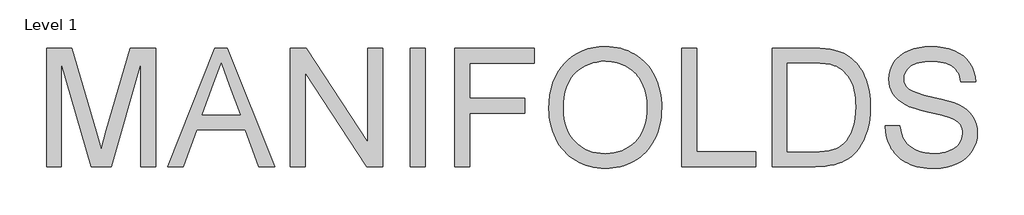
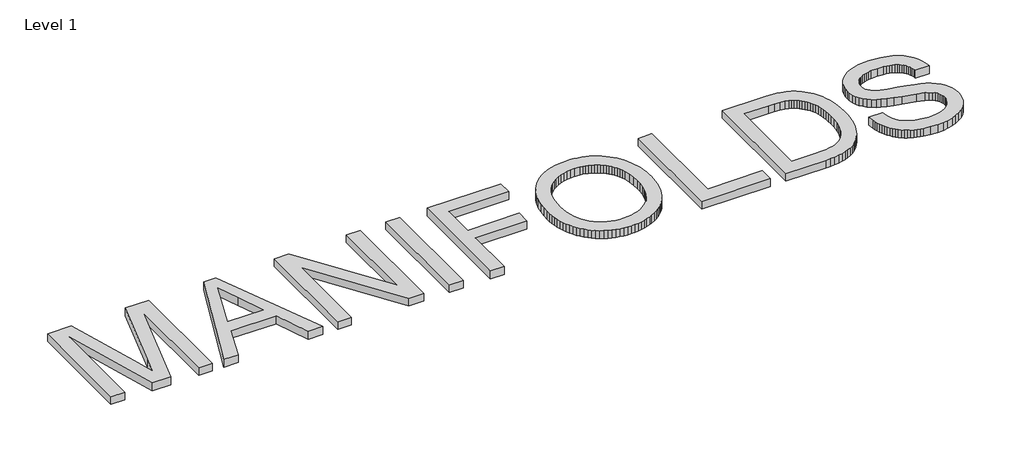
# One storey, part 7 of 58: 1 proxy.
"""IFC4 building model written with IfcOpenShell, lengths in millimetres."""

from ifc_helpers import new_model, si_unit, frame, origin, place, context, project, spatial, polyline, outline, extrude, element, save

model = new_model("IFC4")

# Units and contexts
model_context = context("Model", 3, world=origin())
ifc_project = project(units=[si_unit("LENGTHUNIT", "METRE", prefix="MILLI")], contexts=[model_context])

# Site, building, storey
site = spatial("IfcSite", under=ifc_project)
building = spatial("IfcBuilding", under=site)
storey = spatial("IfcBuildingStorey", under=building, Name="Level 1", Elevation=27.3876384)

# Proxy
placement = place(None, origin())
element("IfcBuildingElementProxy", 1, Name="2000mm Arial", ObjectType="2000mm Arial", at=placement, inside=storey, context=model_context, shape_type="SweptSolid", body=[
    extrude(outline(polyline([(3112.7151983, -5768.0795182), (3112.7151983, -3758.9533152), (3544.8539153, -3758.9533152), (3955.9007312, -5175.053742), (4038.7968075, -5470.8308661), (4128.5600143, -5150.5282757), (4532.7396997, -3758.9533152), (4964.8784167, -3758.9533152), (4964.8784167, -5768.0795182), (4713.7376413, -5768.0795182), (4713.7376413, -4010.0940906), (4209.0035439, -5768.0795182), (3868.590071, -5768.0795182), (3363.8559737, -4010.0940906), (3363.8559737, -5768.0795182), (3112.7151983, -5768.0795182)])), frame((0.0, 0.0, 27.3876384), z_axis=(0.0, 0.0, 1.0), x_axis=(1.0, 0.0, 0.0)), (0.0, 0.0, 1.0), 150.0),
    extrude(outline(polyline([(5170.4018246, -5768.0795182), (5972.3845741, -3758.9533152), (6186.2466407, -3758.9533152), (6988.2293901, -5768.0795182), (6722.8638443, -5768.0795182), (6492.81497, -5140.2275798), (5665.3257355, -5140.2275798), (5435.7673705, -5768.0795182), (5170.4018246, -5768.0795182)]), holes=[polyline([(5757.5414889, -4889.0868044), (6401.0897258, -4889.0868044), (6220.0917842, -4395.1439122), (6079.3156074, -4010.0940906), (5954.235729, -4351.9790915), (5757.5414889, -4889.0868044)])]), frame((0.0, 0.0, 27.3876384), z_axis=(0.0, 0.0, 1.0), x_axis=(1.0, 0.0, 0.0)), (0.0, 0.0, 1.0), 150.0),
    extrude(outline(polyline([(7256.537992, -5768.0795182), (7256.537992, -3758.9533152), (7525.3371031, -3758.9533152), (8575.0270627, -5350.656081), (8575.0270627, -3758.9533152), (8826.167838, -3758.9533152), (8826.167838, -5768.0795182), (8557.3687269, -5768.0795182), (7507.6787673, -4175.8862431), (7507.6787673, -5768.0795182), (7256.537992, -5768.0795182)])), frame((0.0, 0.0, 27.3876384), z_axis=(0.0, 0.0, 1.0), x_axis=(1.0, 0.0, 0.0)), (0.0, 0.0, 1.0), 150.0),
    extrude(outline(polyline([(9297.0567919, -5768.0795182), (9297.0567919, -3758.9533152), (9548.1975672, -3758.9533152), (9548.1975672, -5768.0795182), (9297.0567919, -5768.0795182)])), frame((0.0, 0.0, 27.3876384), z_axis=(0.0, 0.0, 1.0), x_axis=(1.0, 0.0, 0.0)), (0.0, 0.0, 1.0), 150.0),
    extrude(outline(polyline([(10050.479118, -5768.0795182), (10050.479118, -3758.9533152), (11400.3607856, -3758.9533152), (11400.3607856, -4010.0940906), (10301.6198934, -4010.0940906), (10301.6198934, -4606.5534321), (11243.397801, -4606.5534321), (11243.397801, -4857.6942075), (10301.6198934, -4857.6942075), (10301.6198934, -5768.0795182), (10050.479118, -5768.0795182)])), frame((0.0, 0.0, 27.3876384), z_axis=(0.0, 0.0, 1.0), x_axis=(1.0, 0.0, 0.0)), (0.0, 0.0, 1.0), 150.0),
    extrude(outline(polyline([(11651.501561, -4790.0039204), (11655.6862187, -4668.7944672), (11668.2401918, -4554.3448456), (11689.1634803, -4446.6550558), (11718.4560841, -4345.7250975), (11756.1180034, -4251.554971), (11802.149238, -4164.1446761), (11856.5497881, -4083.4942129), (11919.3196535, -4009.6035813), (11988.7037306, -3943.4997853), (12062.9469158, -3886.2098287), (12142.0492089, -3837.7337117), (12226.0106101, -3798.0714341), (12314.8311194, -3767.2229959), (12408.5107366, -3745.1883973), (12507.0494618, -3731.967638), (12610.4472951, -3727.5607183), (12678.8810104, -3729.6300545), (12745.6132715, -3735.8380632), (12810.6440783, -3746.1847443), (12873.973431, -3760.6700979), (12935.6013294, -3779.2941239), (12995.5277736, -3802.0568223), (13053.7527635, -3828.9581932), (13110.2762992, -3859.9982366), (13164.2936388, -3894.7400925), (13215.0000405, -3932.7469011), (13262.3955042, -3974.0186625), (13306.48003, -4018.5553765), (13347.2536178, -4066.3570432), (13384.7162676, -4117.4236627), (13418.8679795, -4171.7552349), (13449.7087534, -4229.3517597), (13477.0699768, -4289.577108), (13500.7830371, -4351.7951505), (13520.8479342, -4416.005887), (13537.2646683, -4482.2093178), (13550.0332392, -4550.4054426), (13559.153647, -4620.5942616), (13564.6258917, -4692.7757747), (13566.4499732, -4766.949982), (13564.5300891, -4842.0975437), (13558.7704366, -4915.2370829), (13549.1710158, -4986.3685995), (13535.7318266, -5055.4920936), (13518.4528692, -5122.6075651), (13497.3341434, -5187.715014), (13472.3756493, -5250.8144404), (13443.5773868, -5311.9058442), (13411.2574207, -5370.1691552), (13375.7338156, -5424.7843031), (13337.0065714, -5475.7512878), (13295.0756881, -5523.0701094), (13249.9411658, -5566.740768), (13201.6030045, -5606.7632633), (13150.0612041, -5643.1375956), (13095.3157647, -5675.8637648), (13038.4128507, -5704.8344719), (12980.3986265, -5729.9424181), (12921.2730921, -5751.1876033), (12861.0362475, -5768.5700276), (12799.6880927, -5782.0896909), (12737.2286277, -5791.7465933), (12673.6578525, -5797.5407347), (12608.9757671, -5799.4721152), (12539.2774574, -5797.3376332), (12471.4492146, -5790.9341872), (12405.4910385, -5780.2617772), (12341.4029293, -5765.3204033), (12279.1848869, -5746.1100653), (12218.8369112, -5722.6307634), (12160.3590024, -5694.8824975), (12103.7511604, -5662.8652676), (12049.7644776, -5627.1577215), (11999.1500464, -5588.3385068), (11951.9078669, -5546.4076235), (11908.037939, -5501.3650717), (11867.5402627, -5453.2108514), (11830.414838, -5401.9449625), (11796.6616649, -5347.5674051), (11766.2807435, -5290.0781792), (11739.3793726, -5230.6000912), (11716.0648512, -5170.2559477), (11696.3371792, -5109.0457486), (11680.1963566, -5046.969494), (11667.6423835, -4984.0271839), (11658.6752599, -4920.2188183), (11653.2949857, -4855.5443971), (11651.501561, -4790.0039204)]), holes=[polyline([(11902.6423364, -4792.456467), (11905.7808297, -4878.0426804), (11915.1963095, -4958.9537267), (11930.8887758, -5035.189606), (11952.8582287, -5106.7503182), (11981.1046682, -5173.6358635), (12015.6280941, -5235.8462417), (12056.4285067, -5293.3814529), (12103.5059057, -5346.2414971), (12155.3197855, -5393.606304), (12210.3296401, -5434.6558033), (12268.5354695, -5469.389995), (12329.9372738, -5497.8088791), (12394.5350529, -5519.9124557), (12462.3288068, -5535.7007246), (12533.3185355, -5545.173686), (12607.5042391, -5548.3313398), (12683.0465076, -5545.1430292), (12755.162875, -5535.5780973), (12823.8533412, -5519.6365442), (12889.1179064, -5497.3183698), (12950.9565706, -5468.6235742), (13009.3693336, -5433.5521573), (13064.3561956, -5392.1041192), (13115.9171565, -5344.2794598), (13162.6496662, -5290.5916811), (13203.1511746, -5231.5542851), (13237.4216817, -5167.1672717), (13265.4611875, -5097.430641), (13287.269692, -5022.344393), (13302.8471953, -4941.9085276), (13312.1936972, -4856.1230448), (13315.3091979, -4764.9879447), (13309.9749089, -4650.0554781), (13293.9720421, -4542.6645923), (13267.3005975, -4442.8152874), (13249.9641585, -4395.7187278), (13229.960575, -4350.5075635), (13207.3933138, -4307.4845306), (13182.3658419, -4266.9523653), (13154.878159, -4228.9110678), (13124.9302654, -4193.3606379), (13092.5221608, -4160.3010757), (13057.6538455, -4129.7323811), (13020.3253193, -4101.6545543), (12980.5365822, -4076.0675951), (12938.8854426, -4053.2474151), (12895.9697086, -4033.4699257), (12851.7893802, -4016.735127), (12806.3444575, -4003.043019), (12759.6349405, -3992.3936017), (12711.660829, -3984.786875), (12611.9188231, -3978.7014937), (12540.5880371, -3981.6330533), (12471.7864398, -3990.4277323), (12405.5140312, -4005.0855305), (12341.7708113, -4025.6064481), (12280.5567801, -4051.9904849), (12221.8719377, -4084.2376411), (12165.716284, -4122.3479165), (12112.089819, -4166.3213112), (12063.0005652, -4217.1465081), (12020.4565453, -4275.81219), (11984.4577593, -4342.318357), (11955.004207, -4416.6650089), (11932.0958886, -4498.8521459), (11915.732804, -4588.8797679), (11905.9149533, -4686.747875), (11902.6423364, -4792.456467)])]), frame((0.0, 0.0, 27.3876384), z_axis=(0.0, 0.0, 1.0), x_axis=(1.0, 0.0, 0.0)), (0.0, 0.0, 1.0), 150.0),
    extrude(outline(polyline([(13911.7685394, -5768.0795182), (13911.7685394, -3758.9533152), (14162.9093147, -3758.9533152), (14162.9093147, -5516.9387429), (15167.4724162, -5516.9387429), (15167.4724162, -5768.0795182), (13911.7685394, -5768.0795182)])), frame((0.0, 0.0, 27.3876384), z_axis=(0.0, 0.0, 1.0), x_axis=(1.0, 0.0, 0.0)), (0.0, 0.0, 1.0), 150.0),
    extrude(outline(polyline([(15450.0057885, -5768.0795182), (15450.0057885, -3758.9533152), (16143.0954675, -3758.9533152), (16253.6133502, -3760.7620684), (16350.2130307, -3766.1883278), (16432.8945092, -3775.2320935), (16501.6577854, -3787.8933655), (16584.86043, -3811.7750384), (16661.8090806, -3843.6888015), (16732.5037374, -3883.6346548), (16796.9444002, -3931.6125983), (16835.4263897, -3966.3774469), (16871.4098474, -4003.4722147), (16904.8947732, -4042.8969018), (16935.8811671, -4084.6515083), (16964.3690291, -4128.7360341), (16990.3583592, -4175.1504791), (17013.8491574, -4223.8948435), (17034.8414238, -4274.9691271), (17069.3916745, -4383.1877474), (17094.070425, -4498.8866349), (17108.8776753, -4622.0657896), (17113.8134254, -4752.7252115), (17110.4718306, -4863.7795888), (17100.4470462, -4968.3653744), (17083.7390723, -5066.4825682), (17060.3479088, -5158.1311702), (17031.7144268, -5242.7287007), (16999.2794976, -5319.6926798), (16963.043121, -5389.0231074), (16923.0052972, -5450.7199837), (16880.0857311, -5505.5190726), (16835.2041277, -5554.156138), (16788.360487, -5596.6311801), (16739.554809, -5632.9441987), (16687.2082667, -5664.168183), (16629.7420334, -5691.3761222), (16567.156109, -5714.5680163), (16499.4504934, -5733.7438653), (16426.5638732, -5748.7657135), (16348.4349344, -5759.495605), (16265.0636773, -5765.9335399), (16176.4501017, -5768.0795182), (15450.0057885, -5768.0795182)]), holes=[polyline([(15701.1465639, -5516.9387429), (16145.5480141, -5516.9387429), (16243.006086, -5514.6701372), (16329.3663843, -5507.8643203), (16404.6289092, -5496.5212921), (16468.7936605, -5480.6410527), (16524.4051555, -5460.6221408), (16574.0079111, -5436.8630952), (16617.6019276, -5409.3639161), (16655.1872047, -5378.1246033), (16701.5250077, -5327.7707553), (16742.4365513, -5269.4154738), (16777.9218354, -5203.0587589), (16807.9808601, -5128.7006106), (16831.9085182, -5046.1877448), (16848.9997025, -4955.3668772), (16859.2544131, -4856.2380079), (16862.67265, -4748.8011369), (16860.9980205, -4673.6612394), (16855.974132, -4602.9972395), (16847.6009845, -4536.8091372), (16835.878578, -4475.0969325), (16820.8069125, -4417.8606254), (16802.3859881, -4365.100216), (16780.6158046, -4316.8157041), (16755.4963621, -4273.0070898), (16727.9780224, -4233.153207), (16699.0111474, -4196.7328895), (16668.595737, -4163.7461373), (16636.7317913, -4134.1929503), (16603.4193102, -4108.0733287), (16568.6582938, -4085.3872723), (16532.448742, -4066.1347812), (16494.7906548, -4050.3158554), (16430.9631287, -4032.7188333), (16350.3356581, -4020.1495318), (16252.908243, -4012.6079509), (16138.6808835, -4010.0940906), (15701.1465639, -4010.0940906), (15701.1465639, -5516.9387429)])]), frame((0.0, 0.0, 27.3876384), z_axis=(0.0, 0.0, 1.0), x_axis=(1.0, 0.0, 0.0)), (0.0, 0.0, 1.0), 150.0),
    extrude(outline(polyline([(17364.9542008, -5077.442386), (17616.0949761, -5077.442386), (17627.5912885, -5150.5436041), (17644.9123991, -5216.8083485), (17668.058308, -5276.2366191), (17697.0290151, -5328.828416), (17733.2960484, -5375.6413999), (17778.330936, -5417.7332315), (17832.1336778, -5455.1039108), (17894.7042738, -5487.7534379), (17963.7434616, -5514.25627), (18036.9519786, -5533.1868643), (18114.3298249, -5544.5452209), (18195.8770005, -5548.3313398), (18268.0125284, -5545.4649259), (18335.794786, -5536.8656843), (18399.2237734, -5522.5336149), (18458.2994904, -5502.4687177), (18511.5657376, -5477.3914284), (18557.5663155, -5448.0221824), (18596.3012239, -5414.3609799), (18627.7704629, -5376.4078207), (18652.1273166, -5335.8028455), (18669.5250693, -5294.1861948), (18679.9637209, -5251.5578686), (18683.4432715, -5207.9178669), (18680.8374407, -5164.4618062), (18673.0199483, -5123.856831), (18659.9907943, -5086.1029413), (18641.7499787, -5051.200137), (18615.446416, -5018.9644771), (18578.2290209, -4989.2120208), (18530.0977932, -4961.9427679), (18471.0527329, -4937.1567185), (18338.4312737, -4897.7320313), (18105.3780297, -4841.262145), (17974.5499952, -4809.1491126), (17865.3350279, -4777.8025009), (17777.7331278, -4747.22231), (17711.7442949, -4717.40854), (17644.6824728, -4677.401373), (17586.7257302, -4632.9183084), (17537.8740669, -4583.9593463), (17498.127483, -4530.5244865), (17467.3326943, -4473.165552), (17445.3364167, -4412.434366), (17432.1386501, -4348.3309283), (17427.7393946, -4280.8552391), (17433.1809825, -4206.0678951), (17449.505746, -4133.7637547), (17476.7136852, -4063.9428177), (17514.8048001, -3996.6050841), (17537.8242496, -3964.5533653), (17563.3498951, -3934.4943406), (17621.9197744, -3880.3543736), (17690.5144381, -3834.1851833), (17769.1338861, -3795.9867694), (17855.1263025, -3766.0503721), (17945.8398711, -3744.6672311), (18041.2745921, -3731.8373465), (18141.4304653, -3727.5607183), (18250.6914178, -3732.0366159), (18353.3304945, -3745.4643087), (18449.3476952, -3767.8437968), (18538.74302, -3799.17508), (18619.861, -3839.182247), (18691.046166, -3887.5893862), (18722.9139439, -3914.9429454), (18752.2985182, -3944.3964976), (18779.1998891, -3975.9500429), (18803.6180566, -4009.6035813), (18844.6062422, -4081.3099135), (18874.8645363, -4157.6147707), (18894.3929389, -4238.5181528), (18903.1914499, -4324.0200598), (18652.0506746, -4324.0200598), (18645.2142008, -4282.6486638), (18635.2507301, -4243.8830985), (18622.1602624, -4207.7233641), (18605.9427978, -4174.1694605), (18586.5983362, -4143.2213876), (18564.1268777, -4114.8791456), (18538.5284222, -4089.1427343), (18509.8029698, -4066.0121539), (18477.6976015, -4045.5487179), (18441.9593985, -4027.81374), (18402.5883608, -4012.8072203), (18359.5844884, -4000.5291587), (18312.9477813, -3990.9795553), (18262.6782395, -3984.15841), (18151.2406518, -3978.7014937), (18036.2468715, -3984.0970963), (17985.0269678, -3990.8415995), (17937.9917219, -4000.2839041), (17895.1411337, -4012.4240099), (17856.4752032, -4027.2619171), (17821.9939303, -4044.7976255), (17791.6973152, -4065.0311352), (17765.2557968, -4087.1730328), (17742.3398141, -4110.4339048), (17722.9493673, -4134.8137512), (17707.0844563, -4160.312572), (17694.745081, -4186.9303672), (17685.9312416, -4214.6671368), (17680.6429379, -4243.5228808), (17678.88017, -4273.4975992), (17683.8772337, -4324.1120303), (17698.8684251, -4370.0053092), (17723.8537439, -4411.1774359), (17758.8331903, -4447.6284102), (17782.4082948, -4464.8422219), (17813.8928622, -4482.1480041), (17900.5903857, -4517.03548), (18018.9257609, -4552.2908378), (18168.8989876, -4587.9140777), (18321.0181926, -4622.6482694), (18445.7915026, -4655.2364828), (18543.2189176, -4685.6787179), (18613.3004377, -4713.9749747), (18690.2950736, -4756.863884), (18756.4678475, -4805.0870822), (18811.8187594, -4858.6445693), (18856.3478092, -4917.5363454), (18890.5761632, -4981.455842), (18915.0249874, -5050.096491), (18929.694282, -5123.4582922), (18934.5840469, -5201.5412457), (18928.958518, -5280.09938), (18912.0819315, -5356.358252), (18883.9542873, -5430.3178614), (18844.5755854, -5501.9782084), (18794.6356045, -5568.5648495), (18734.8241235, -5627.3033414), (18665.1411422, -5678.1936841), (18585.5866608, -5721.2358775), (18498.47527, -5755.4642315), (18406.1215608, -5779.9130557), (18308.5255331, -5794.5823503), (18205.6871871, -5799.4721152), (18077.2197287, -5794.1991399), (17959.635446, -5778.3802141), (17904.9244955, -5766.5160198), (17852.9343389, -5752.0153378), (17803.6649763, -5734.8781682), (17757.1164076, -5715.1045109), (17713.1430129, -5692.6790376), (17671.5991722, -5667.5864199), (17632.4848854, -5639.8266577), (17595.8001527, -5609.399751), (17561.544974, -5576.3056998), (17529.7193494, -5540.5445042), (17500.3232787, -5502.1161641), (17473.356762, -5461.0206796), (17449.1301998, -5417.9018441), (17427.9539924, -5373.4034511), (17409.82814, -5327.5255006), (17394.7526424, -5280.2679926), (17382.7274997, -5231.6309272), (17373.7527118, -5181.6143043), (17364.9542008, -5077.442386)])), frame((0.0, 0.0, 27.3876384), z_axis=(0.0, 0.0, 1.0), x_axis=(1.0, 0.0, 0.0)), (0.0, 0.0, 1.0), 150.0),
])

save(model, "model.ifc")
